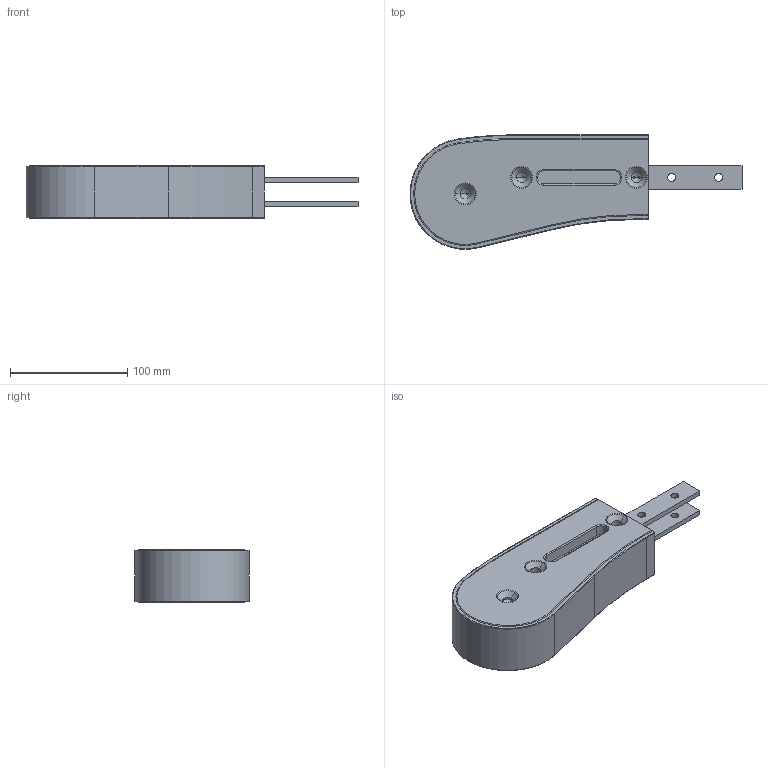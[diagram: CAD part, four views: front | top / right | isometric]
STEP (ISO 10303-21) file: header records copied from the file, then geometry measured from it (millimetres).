
FILE_DESCRIPTION (( 'STEP AP214' ), '1' );
FILE_NAME ('FKIE 200.step', '2017-04-07T11:07:19', ( '' ), ( '' ), 'SwSTEP 2.0', 'SolidWorks 2016', '' );
FILE_SCHEMA (( 'AUTOMOTIVE_DESIGN' ));
Length unit declared in the file: millimetre
Products named in the file (1): FKIE 200
Bounding box: 283.16 x 97.51 x 45 mm (x, y, z)
Volume: 722011.7 mm3; surface area: 68229.4 mm2
Topology: 1 solids, 1 shells, 125 faces, 302 edges, 177 vertices
Faces by surface type: cylinder 45, torus 32, cone 24, plane 24
Entity records: 4043 total; most frequent: DIRECTION 705, CARTESIAN_POINT 593, ORIENTED_EDGE 580, EDGE_CURVE 290, AXIS2_PLACEMENT_3D 289, VERTEX_POINT 177, CIRCLE 163, EDGE_LOOP 143
